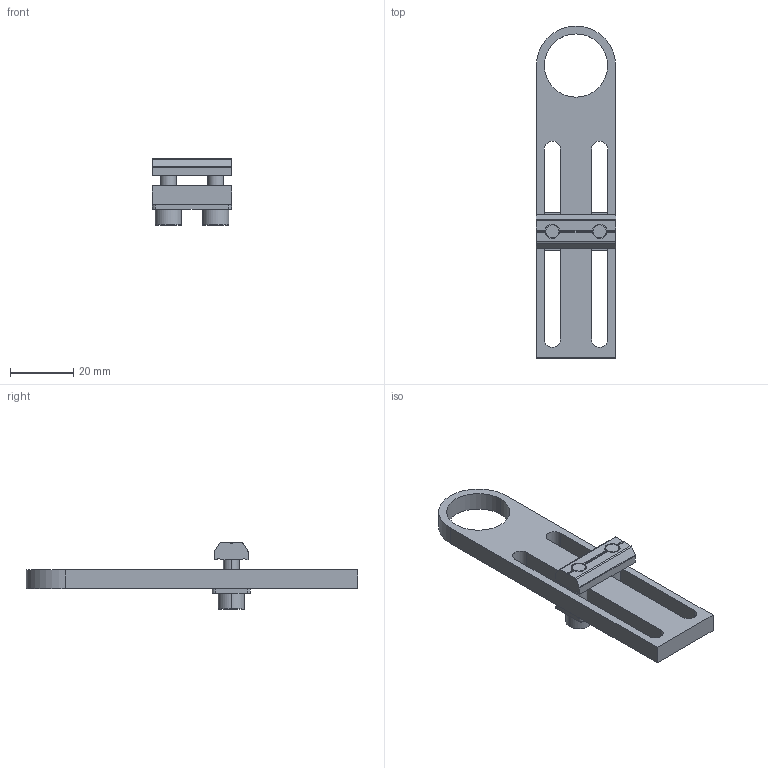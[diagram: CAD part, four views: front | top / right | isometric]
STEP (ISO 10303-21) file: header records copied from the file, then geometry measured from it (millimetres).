
FILE_DESCRIPTION (( 'STEP AP214' ), '1' );
FILE_NAME ('SMBE-M2060T.STEP', '2023-01-09T07:50:53', ( 'Windows User' ), ( 'P R C' ), 'SwSTEP 2.0', 'SolidWorks 2018', '' );
FILE_SCHEMA (( 'AUTOMOTIVE_DESIGN' ));
Length unit declared in the file: millimetre
Products named in the file (5): PTC-M5L16; SMBE-M2060T; PTN-M5P15; PTD-M5P15; SMBE5-M2060
Assembly tree (5 placements, depth 2):
  SMBE-M2060T
    SMBE5-M2060
    PTC-M5L16  x2
    PTD-M5P15
    PTN-M5P15
Bounding box: 25 x 105 x 21 mm (x, y, z)
Volume: 12038.6 mm3; surface area: 9366.7 mm2
Topology: 5 solids, 5 shells, 131 faces, 351 edges, 230 vertices
Faces by surface type: plane 63, cylinder 56, cone 12
Entity records: 3871 total; most frequent: CARTESIAN_POINT 776, ORIENTED_EDGE 618, DIRECTION 585, EDGE_CURVE 309, AXIS2_PLACEMENT_3D 205, VERTEX_POINT 204, LINE 175, VECTOR 175
